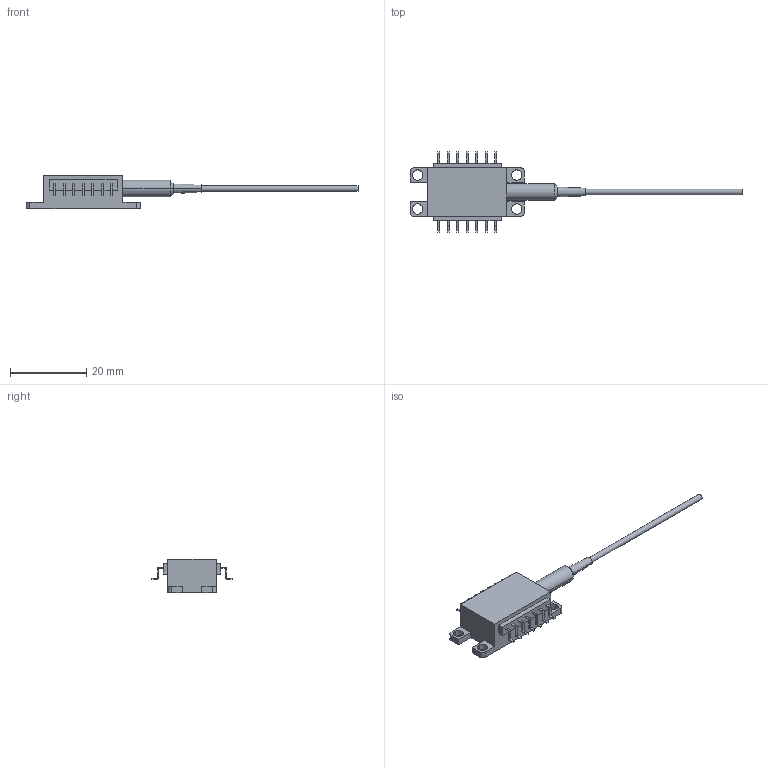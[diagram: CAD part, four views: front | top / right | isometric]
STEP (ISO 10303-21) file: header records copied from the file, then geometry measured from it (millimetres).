
FILE_DESCRIPTION(/* description */ (''),/* implementation_level */ '2;1');
FILE_NAME(/* name */ '蝶形.stp',/* time_stamp */ '2026-05-07T16:10:47+08:00',/* author */ (''),/* organization */ (''),/* preprocessor_version */ 'ST-DEVELOPER v20.1',/* originating_system */ 'SIEMENS PLM Software NX2512.1700',/* authorisation */ '');
FILE_SCHEMA (('AUTOMOTIVE_DESIGN { 1 0 10303 214 3 1 1 1 }'));
Length unit declared in the file: millimetre
Products named in the file (1): 蝶形
Bounding box: 87.05 x 21 x 8.8 mm (x, y, z)
Volume: 2828.2 mm3; surface area: 1961.6 mm2
Topology: 1 solids, 1 shells, 218 faces, 590 edges, 392 vertices
Faces by surface type: plane 156, cylinder 58, cone 4
Full cylindrical faces by diameter (mm): 1.5 x1
Entity records: 8371 total; most frequent: CARTESIAN_POINT 1200, ORIENTED_EDGE 1178, DIRECTION 1147, EDGE_CURVE 589, LINE 469, VECTOR 469, VERTEX_POINT 392, AXIS2_PLACEMENT_3D 339
